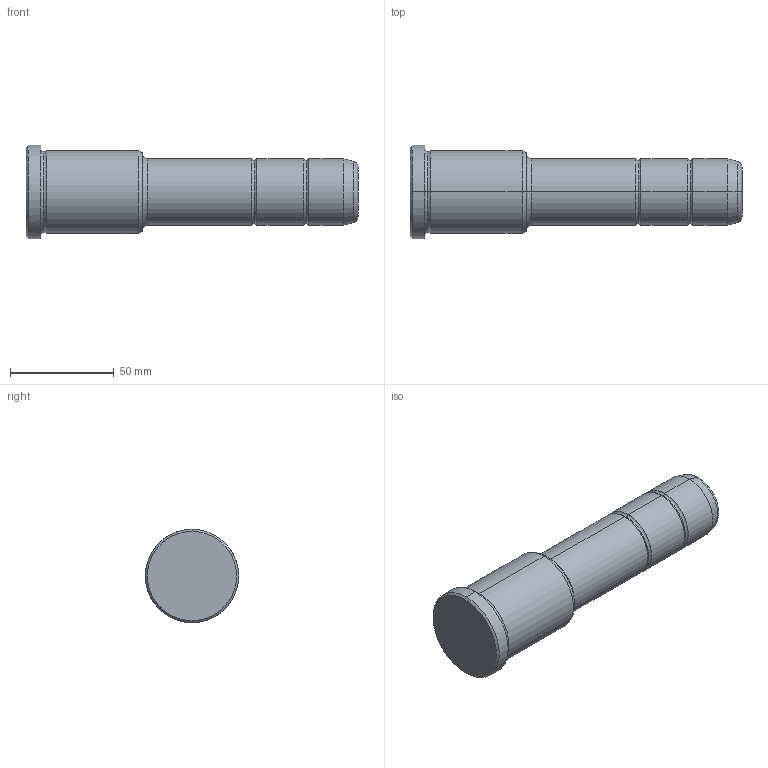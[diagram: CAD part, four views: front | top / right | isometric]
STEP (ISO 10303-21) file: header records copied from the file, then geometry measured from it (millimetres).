
FILE_DESCRIPTION(('CATIA V5 STEP Exchange'),'2;1');
FILE_NAME('C:\Users\Utente\Desktop\IO LAVORO\3D X SITO CF\X SITO\PLASTICA\351\351-32X56X160.stp','2021-09-07T12:36:11+00:00',('none'),('none'),'CATIA Version 5 Release 20 GA (IN-10)','CATIA V5 STEP AP203','none');
FILE_SCHEMA(('CONFIG_CONTROL_DESIGN'));
Length unit declared in the file: millimetre
Products named in the file (1): 351-32X56X160
Bounding box: 160 x 45 x 45 mm (x, y, z)
Volume: 155144.7 mm3; surface area: 20353.9 mm2
Topology: 1 solids, 1 shells, 36 faces, 102 edges, 70 vertices
Faces by surface type: torus 16, cylinder 10, cone 6, plane 4
Entity records: 1292 total; most frequent: CARTESIAN_POINT 321, ORIENTED_EDGE 204, DIRECTION 166, AXIS2_PLACEMENT_3D 115, EDGE_CURVE 102, CIRCLE 78, VERTEX_POINT 70, EDGE_LOOP 38
